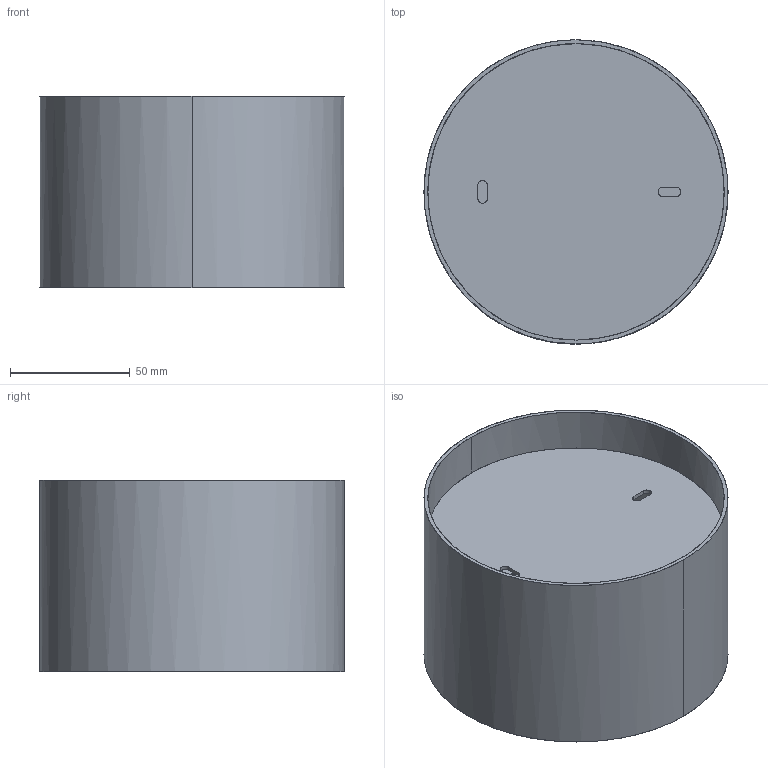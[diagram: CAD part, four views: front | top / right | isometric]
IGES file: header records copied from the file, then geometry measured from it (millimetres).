
Start section: SolidWorks IGES file using NURBS representation for surfaces
Global section: file name: Z:\Modele 3D_WWW\_KOLEKCJE_WWW\POINT\POINT-S-7603-6000-6006\POINT-S-7603-6000-6006.IGS; native system: SolidWorks 2021; preprocessor: SolidWorks 2021; author: gabriela.tworek; date: 211012.171835; units: millimetre
Bounding box: 127 x 127 x 80 mm (x, y, z)
Surface area: 127232.1 mm2 (no closed solid volume)
Topology: 0 solids, 0 shells, 2037 faces, 29152 edges, 29152 vertices
Faces by surface type: bspline 2037
